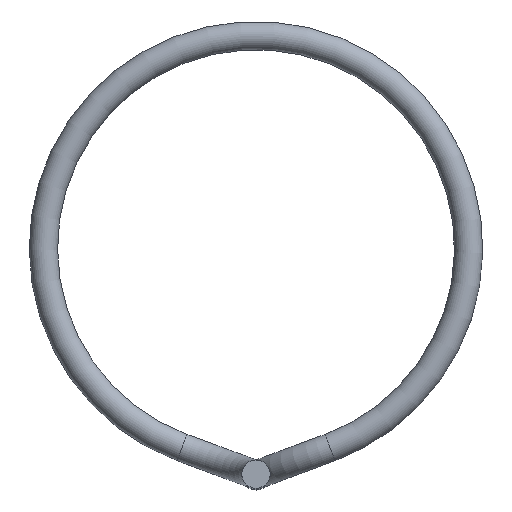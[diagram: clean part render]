
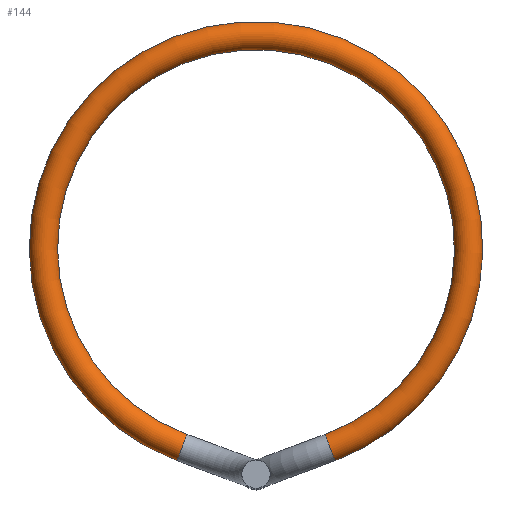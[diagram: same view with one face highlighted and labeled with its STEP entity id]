
A CAD part, top view. The second image highlights one B-rep face of the part: STEP entity #144.
In plain terms, the highlighted toroidal (fillet/blend) face has major radius 37.5 mm and minor radius 2.5 mm.
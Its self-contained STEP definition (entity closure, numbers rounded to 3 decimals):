
#73=CARTESIAN_POINT('',(12.747,-34.341,2.344));
#74=VERTEX_POINT('',#73);
#75=CARTESIAN_POINT('',(13.049,-35.156,0.));
#76=DIRECTION('',(-0.938,-0.348,0.));
#77=DIRECTION('',(0.121,-0.326,-0.938));
#78=AXIS2_PLACEMENT_3D('',#75,#76,#77);
#79=CIRCLE('',#78,2.5);
#80=EDGE_CURVE('',#74,#74,#79,.T.);
#125=CARTESIAN_POINT('',(0.0,0.0,0.));
#126=DIRECTION('',(0.0,0.0,-1.0));
#127=DIRECTION('',(-1.0,0.0,0.0));
#128=AXIS2_PLACEMENT_3D('',#125,#126,#127);
#129=TOROIDAL_SURFACE('',#128,37.5,2.5);
#130=ORIENTED_EDGE('',*,*,#80,.F.);
#131=EDGE_LOOP('',(#130));
#132=FACE_OUTER_BOUND('',#131,.T.);
#133=CARTESIAN_POINT('',(-12.747,-34.341,-2.344));
#134=VERTEX_POINT('',#133);
#135=CARTESIAN_POINT('',(-13.049,-35.156,0.));
#136=DIRECTION('',(0.938,-0.348,0.));
#137=DIRECTION('',(-0.121,-0.326,0.938));
#138=AXIS2_PLACEMENT_3D('',#135,#136,#137);
#139=CIRCLE('',#138,2.5);
#140=EDGE_CURVE('',#134,#134,#139,.T.);
#141=ORIENTED_EDGE('',*,*,#140,.F.);
#142=EDGE_LOOP('',(#141));
#143=FACE_BOUND('',#142,.T.);
#144=ADVANCED_FACE('',(#132,#143),#129,.T.);
